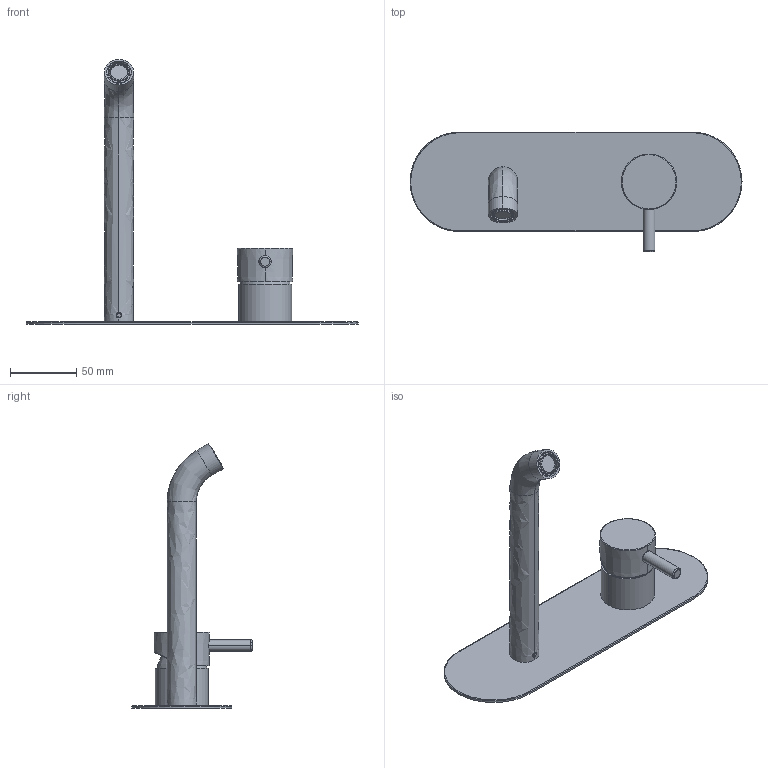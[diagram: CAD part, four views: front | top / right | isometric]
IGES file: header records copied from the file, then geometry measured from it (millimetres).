
Start section:  PTC IGES file: 12532.igs
Global section: file name: 12532.igs; native system: Creo Parametric by PTC Inc.; preprocessor: 2022014; author: carloff; organization: Unknown; date: 20240319.154908; units: millimetre
Bounding box: 250 x 90.4 x 199.53 mm (x, y, z)
Surface area: 106388.2 mm2 (no closed solid volume)
Topology: 0 solids, 0 shells, 808 faces, 4622 edges, 4618 vertices
Faces by surface type: revolution 459, bspline 349
